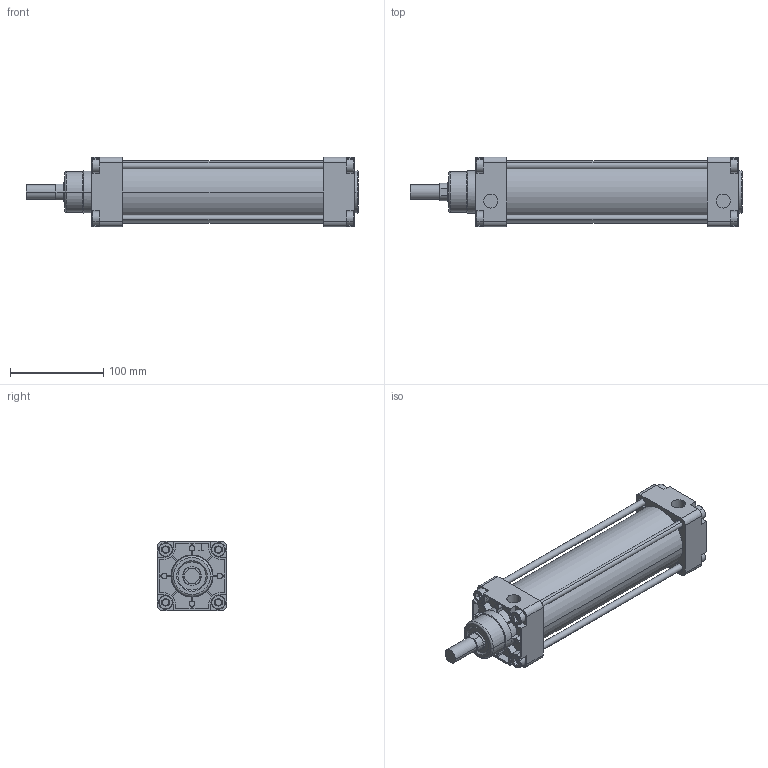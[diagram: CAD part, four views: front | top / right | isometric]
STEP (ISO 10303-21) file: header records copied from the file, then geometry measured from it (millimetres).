
FILE_DESCRIPTION(('CATIA V5 STEP Exchange'),'2;1');
FILE_NAME('D:\stp file for catalog\PNC\63\PNC 63-20-160-00.stp','2015-07-05T05:55:37+00:00',('none'),('none'),'Unofficial Packaging Version','CATIA V5 STEP AP203','none');
FILE_SCHEMA(('CONFIG_CONTROL_DESIGN'));
Length unit declared in the file: millimetre
Products named in the file (1): PNC 63-20-160-00
Assembly tree (2 placements, depth 2):
  PNC 63-20-160-00
    #58
    #15151
Bounding box: 355.5 x 74.5 x 74.5 mm (x, y, z)
Volume: 702734.8 mm3; surface area: 209383.7 mm2
Topology: 6 solids, 6 shells, 572 faces, 1446 edges, 930 vertices
Faces by surface type: plane 356, cylinder 154, torus 26, cone 20, extrusion 16
Entity records: 15575 total; most frequent: CARTESIAN_POINT 3056, ORIENTED_EDGE 2892, DIRECTION 1926, EDGE_CURVE 1446, VECTOR 930, VERTEX_POINT 930, LINE 914, AXIS2_PLACEMENT_3D 732
